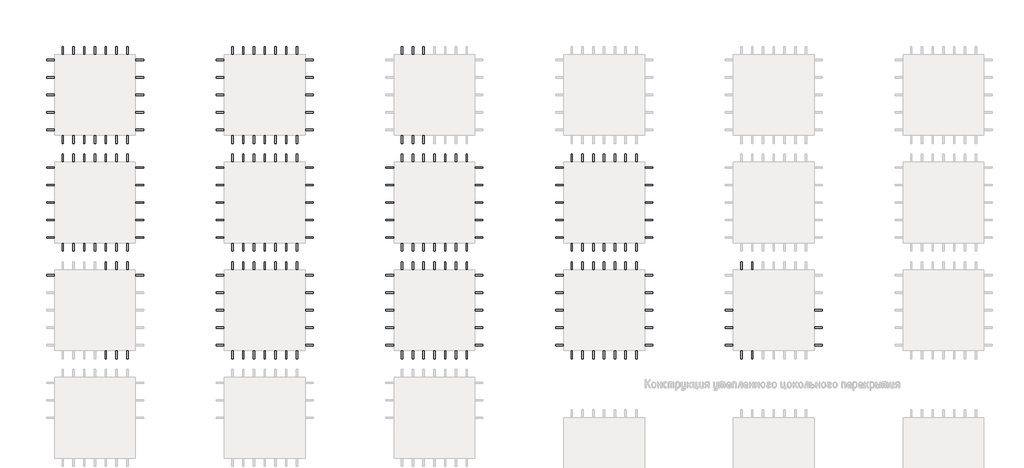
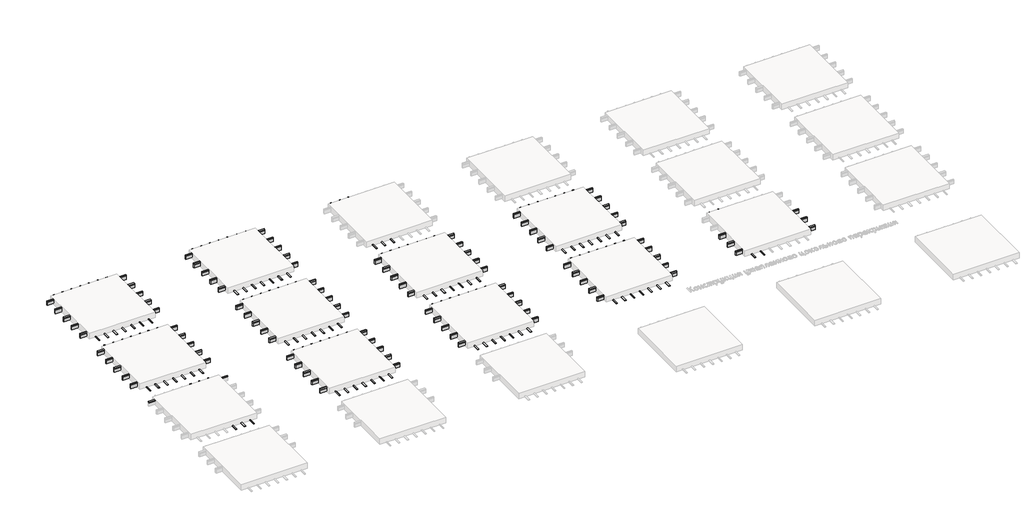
# One storey, part 5 of 42: 168 beams.
"""IFC4 building model written with IfcOpenShell, lengths in millimetres."""

from ifc_helpers import new_model, si_unit, origin, place, context, project, spatial, transform, mapped, element, save
from components import beam_10aa4ee0, beam_54a566a4, beam_d9e12bf5

model = new_model("IFC4")

# Units and contexts
model_context = context("Model", 3, world=origin())
ifc_project = project(units=[si_unit("LENGTHUNIT", "METRE", prefix="MILLI")], contexts=[model_context])

# Site, building, storey
site = spatial("IfcSite", under=ifc_project)
building = spatial("IfcBuilding", under=site)
storey = spatial("IfcBuildingStorey", under=building, Name="Этаж 01", Elevation=0.0)

# Beams
placement = place(None, origin())
beam_shape = beam_10aa4ee0(model_context)
element("IfcBeam", 1, ObjectType="Деревянный брус : 50х150", at=placement, inside=storey, context=model_context, shape_type="MappedRepresentation", body=[
    mapped(beam_shape, transform((54513.2067679, -31726.7844763, -151.0), x_axis=(-1.0, 0.0, 0.0), y_axis=(0.0, -1.0, 0.0), z_axis=(0.0, 0.0, 1.0))),
])
element("IfcBeam", 2, ObjectType="Деревянный брус : 50х150", at=placement, inside=storey, context=model_context, shape_type="MappedRepresentation", body=[
    mapped(beam_shape, transform((54513.2067679, -31076.7844763, -151.0), x_axis=(-1.0, 0.0, 0.0), y_axis=(0.0, -1.0, 0.0), z_axis=(0.0, 0.0, 1.0))),
])
element("IfcBeam", 3, ObjectType="Деревянный брус : 50х150", at=placement, inside=storey, context=model_context, shape_type="MappedRepresentation", body=[
    mapped(beam_shape, transform((54513.2067679, -30426.7844763, -151.0), x_axis=(-1.0, 0.0, 0.0), y_axis=(0.0, -1.0, 0.0), z_axis=(0.0, 0.0, 1.0))),
])
element("IfcBeam", 4, ObjectType="Деревянный брус : 50х150", at=placement, inside=storey, context=model_context, shape_type="MappedRepresentation", body=[
    mapped(beam_shape, transform((54513.2067679, -29776.7844763, -151.0), x_axis=(-1.0, 0.0, 0.0), y_axis=(0.0, -1.0, 0.0), z_axis=(0.0, 0.0, 1.0))),
])
element("IfcBeam", 5, ObjectType="Деревянный брус : 50х150", at=placement, inside=storey, context=model_context, shape_type="MappedRepresentation", body=[
    mapped(beam_shape, transform((54513.2067679, -29126.7844763, -151.0), x_axis=(-1.0, 0.0, 0.0), y_axis=(0.0, -1.0, 0.0), z_axis=(0.0, 0.0, 1.0))),
])
element("IfcBeam", 6, ObjectType="Деревянный брус : 50х150", at=placement, inside=storey, context=model_context, shape_type="MappedRepresentation", body=[
    mapped(beam_shape, transform((35613.2067679, -27726.7844763, -151.0), x_axis=(-1.0, 0.0, 0.0), y_axis=(0.0, -1.0, 0.0), z_axis=(0.0, 0.0, 1.0))),
])
element("IfcBeam", 7, ObjectType="Деревянный брус : 50х150", at=placement, inside=storey, context=model_context, shape_type="MappedRepresentation", body=[
    mapped(beam_shape, transform((35613.2067679, -27076.7844763, -151.0), x_axis=(-1.0, 0.0, 0.0), y_axis=(0.0, -1.0, 0.0), z_axis=(0.0, 0.0, 1.0))),
])
element("IfcBeam", 8, ObjectType="Деревянный брус : 50х150", at=placement, inside=storey, context=model_context, shape_type="MappedRepresentation", body=[
    mapped(beam_shape, transform((35613.2067679, -26426.7844763, -151.0), x_axis=(-1.0, 0.0, 0.0), y_axis=(0.0, -1.0, 0.0), z_axis=(0.0, 0.0, 1.0))),
])
element("IfcBeam", 9, ObjectType="Деревянный брус : 50х150", at=placement, inside=storey, context=model_context, shape_type="MappedRepresentation", body=[
    mapped(beam_shape, transform((35613.2067679, -25776.7844763, -151.0), x_axis=(-1.0, 0.0, 0.0), y_axis=(0.0, -1.0, 0.0), z_axis=(0.0, 0.0, 1.0))),
])
element("IfcBeam", 10, ObjectType="Деревянный брус : 50х150", at=placement, inside=storey, context=model_context, shape_type="MappedRepresentation", body=[
    mapped(beam_shape, transform((35613.2067679, -25126.7844763, -151.0), x_axis=(-1.0, 0.0, 0.0), y_axis=(0.0, -1.0, 0.0), z_axis=(0.0, 0.0, 1.0))),
])
element("IfcBeam", 11, ObjectType="Деревянный брус : 50х150", at=placement, inside=storey, context=model_context, shape_type="MappedRepresentation", body=[
    mapped(beam_shape, transform((35613.2067679, -23726.7844763, -151.0), x_axis=(-1.0, 0.0, 0.0), y_axis=(0.0, -1.0, 0.0), z_axis=(0.0, 0.0, 1.0))),
])
element("IfcBeam", 12, ObjectType="Деревянный брус : 50х150", at=placement, inside=storey, context=model_context, shape_type="MappedRepresentation", body=[
    mapped(beam_shape, transform((35613.2067679, -23076.7844763, -151.0), x_axis=(-1.0, 0.0, 0.0), y_axis=(0.0, -1.0, 0.0), z_axis=(0.0, 0.0, 1.0))),
])
element("IfcBeam", 13, ObjectType="Деревянный брус : 50х150", at=placement, inside=storey, context=model_context, shape_type="MappedRepresentation", body=[
    mapped(beam_shape, transform((35613.2067679, -22426.7844763, -151.0), x_axis=(-1.0, 0.0, 0.0), y_axis=(0.0, -1.0, 0.0), z_axis=(0.0, 0.0, 1.0))),
])
element("IfcBeam", 14, ObjectType="Деревянный брус : 50х150", at=placement, inside=storey, context=model_context, shape_type="MappedRepresentation", body=[
    mapped(beam_shape, transform((35613.2067679, -21776.7844763, -151.0), x_axis=(-1.0, 0.0, 0.0), y_axis=(0.0, -1.0, 0.0), z_axis=(0.0, 0.0, 1.0))),
])
element("IfcBeam", 15, ObjectType="Деревянный брус : 50х150", at=placement, inside=storey, context=model_context, shape_type="MappedRepresentation", body=[
    mapped(beam_shape, transform((35613.2067679, -21126.7844763, -151.0), x_axis=(-1.0, 0.0, 0.0), y_axis=(0.0, -1.0, 0.0), z_axis=(0.0, 0.0, 1.0))),
])
element("IfcBeam", 16, ObjectType="Деревянный брус : 50х150", at=placement, inside=storey, context=model_context, shape_type="MappedRepresentation", body=[
    mapped(beam_shape, transform((41913.2067679, -31726.7844763, -151.0), x_axis=(-1.0, 0.0, 0.0), y_axis=(0.0, -1.0, 0.0), z_axis=(0.0, 0.0, 1.0))),
])
element("IfcBeam", 17, ObjectType="Деревянный брус : 50х150", at=placement, inside=storey, context=model_context, shape_type="MappedRepresentation", body=[
    mapped(beam_shape, transform((41913.2067679, -31076.7844763, -151.0), x_axis=(-1.0, 0.0, 0.0), y_axis=(0.0, -1.0, 0.0), z_axis=(0.0, 0.0, 1.0))),
])
element("IfcBeam", 18, ObjectType="Деревянный брус : 50х150", at=placement, inside=storey, context=model_context, shape_type="MappedRepresentation", body=[
    mapped(beam_shape, transform((41913.2067679, -30426.7844763, -151.0), x_axis=(-1.0, 0.0, 0.0), y_axis=(0.0, -1.0, 0.0), z_axis=(0.0, 0.0, 1.0))),
])
element("IfcBeam", 19, ObjectType="Деревянный брус : 50х150", at=placement, inside=storey, context=model_context, shape_type="MappedRepresentation", body=[
    mapped(beam_shape, transform((41913.2067679, -29776.7844763, -151.0), x_axis=(-1.0, 0.0, 0.0), y_axis=(0.0, -1.0, 0.0), z_axis=(0.0, 0.0, 1.0))),
])
element("IfcBeam", 20, ObjectType="Деревянный брус : 50х150", at=placement, inside=storey, context=model_context, shape_type="MappedRepresentation", body=[
    mapped(beam_shape, transform((41913.2067679, -29126.7844763, -151.0), x_axis=(-1.0, 0.0, 0.0), y_axis=(0.0, -1.0, 0.0), z_axis=(0.0, 0.0, 1.0))),
])
element("IfcBeam", 21, ObjectType="Деревянный брус : 50х150", at=placement, inside=storey, context=model_context, shape_type="MappedRepresentation", body=[
    mapped(beam_shape, transform((41913.2067679, -27726.7844763, -151.0), x_axis=(-1.0, 0.0, 0.0), y_axis=(0.0, -1.0, 0.0), z_axis=(0.0, 0.0, 1.0))),
])
element("IfcBeam", 22, ObjectType="Деревянный брус : 50х150", at=placement, inside=storey, context=model_context, shape_type="MappedRepresentation", body=[
    mapped(beam_shape, transform((41913.2067679, -27076.7844763, -151.0), x_axis=(-1.0, 0.0, 0.0), y_axis=(0.0, -1.0, 0.0), z_axis=(0.0, 0.0, 1.0))),
])
element("IfcBeam", 23, ObjectType="Деревянный брус : 50х150", at=placement, inside=storey, context=model_context, shape_type="MappedRepresentation", body=[
    mapped(beam_shape, transform((41913.2067679, -26426.7844763, -151.0), x_axis=(-1.0, 0.0, 0.0), y_axis=(0.0, -1.0, 0.0), z_axis=(0.0, 0.0, 1.0))),
])
element("IfcBeam", 24, ObjectType="Деревянный брус : 50х150", at=placement, inside=storey, context=model_context, shape_type="MappedRepresentation", body=[
    mapped(beam_shape, transform((41913.2067679, -25776.7844763, -151.0), x_axis=(-1.0, 0.0, 0.0), y_axis=(0.0, -1.0, 0.0), z_axis=(0.0, 0.0, 1.0))),
])
element("IfcBeam", 25, ObjectType="Деревянный брус : 50х150", at=placement, inside=storey, context=model_context, shape_type="MappedRepresentation", body=[
    mapped(beam_shape, transform((41913.2067679, -25126.7844763, -151.0), x_axis=(-1.0, 0.0, 0.0), y_axis=(0.0, -1.0, 0.0), z_axis=(0.0, 0.0, 1.0))),
])
element("IfcBeam", 26, ObjectType="Деревянный брус : 50х150", at=placement, inside=storey, context=model_context, shape_type="MappedRepresentation", body=[
    mapped(beam_shape, transform((41913.2067679, -23726.7844763, -151.0), x_axis=(-1.0, 0.0, 0.0), y_axis=(0.0, -1.0, 0.0), z_axis=(0.0, 0.0, 1.0))),
])
element("IfcBeam", 27, ObjectType="Деревянный брус : 50х150", at=placement, inside=storey, context=model_context, shape_type="MappedRepresentation", body=[
    mapped(beam_shape, transform((41913.2067679, -23076.7844763, -151.0), x_axis=(-1.0, 0.0, 0.0), y_axis=(0.0, -1.0, 0.0), z_axis=(0.0, 0.0, 1.0))),
])
element("IfcBeam", 28, ObjectType="Деревянный брус : 50х150", at=placement, inside=storey, context=model_context, shape_type="MappedRepresentation", body=[
    mapped(beam_shape, transform((41913.2067679, -22426.7844763, -151.0), x_axis=(-1.0, 0.0, 0.0), y_axis=(0.0, -1.0, 0.0), z_axis=(0.0, 0.0, 1.0))),
])
element("IfcBeam", 29, ObjectType="Деревянный брус : 50х150", at=placement, inside=storey, context=model_context, shape_type="MappedRepresentation", body=[
    mapped(beam_shape, transform((41913.2067679, -21776.7844763, -151.0), x_axis=(-1.0, 0.0, 0.0), y_axis=(0.0, -1.0, 0.0), z_axis=(0.0, 0.0, 1.0))),
])
element("IfcBeam", 30, ObjectType="Деревянный брус : 50х150", at=placement, inside=storey, context=model_context, shape_type="MappedRepresentation", body=[
    mapped(beam_shape, transform((41913.2067679, -21126.7844763, -151.0), x_axis=(-1.0, 0.0, 0.0), y_axis=(0.0, -1.0, 0.0), z_axis=(0.0, 0.0, 1.0))),
])
element("IfcBeam", 31, ObjectType="Деревянный брус : 50х150", at=placement, inside=storey, context=model_context, shape_type="MappedRepresentation", body=[
    mapped(beam_shape, transform((48213.2067679, -31726.7844763, -151.0), x_axis=(-1.0, 0.0, 0.0), y_axis=(0.0, -1.0, 0.0), z_axis=(0.0, 0.0, 1.0))),
])
element("IfcBeam", 32, ObjectType="Деревянный брус : 50х150", at=placement, inside=storey, context=model_context, shape_type="MappedRepresentation", body=[
    mapped(beam_shape, transform((48213.2067679, -31076.7844763, -151.0), x_axis=(-1.0, 0.0, 0.0), y_axis=(0.0, -1.0, 0.0), z_axis=(0.0, 0.0, 1.0))),
])
element("IfcBeam", 33, ObjectType="Деревянный брус : 50х150", at=placement, inside=storey, context=model_context, shape_type="MappedRepresentation", body=[
    mapped(beam_shape, transform((48213.2067679, -30426.7844763, -151.0), x_axis=(-1.0, 0.0, 0.0), y_axis=(0.0, -1.0, 0.0), z_axis=(0.0, 0.0, 1.0))),
])
element("IfcBeam", 34, ObjectType="Деревянный брус : 50х150", at=placement, inside=storey, context=model_context, shape_type="MappedRepresentation", body=[
    mapped(beam_shape, transform((48213.2067679, -29776.7844763, -151.0), x_axis=(-1.0, 0.0, 0.0), y_axis=(0.0, -1.0, 0.0), z_axis=(0.0, 0.0, 1.0))),
])
element("IfcBeam", 35, ObjectType="Деревянный брус : 50х150", at=placement, inside=storey, context=model_context, shape_type="MappedRepresentation", body=[
    mapped(beam_shape, transform((48213.2067679, -29126.7844763, -151.0), x_axis=(-1.0, 0.0, 0.0), y_axis=(0.0, -1.0, 0.0), z_axis=(0.0, 0.0, 1.0))),
])
element("IfcBeam", 36, ObjectType="Деревянный брус : 50х150", at=placement, inside=storey, context=model_context, shape_type="MappedRepresentation", body=[
    mapped(beam_shape, transform((48213.2067679, -27726.7844763, -151.0), x_axis=(-1.0, 0.0, 0.0), y_axis=(0.0, -1.0, 0.0), z_axis=(0.0, 0.0, 1.0))),
])
element("IfcBeam", 37, ObjectType="Деревянный брус : 50х150", at=placement, inside=storey, context=model_context, shape_type="MappedRepresentation", body=[
    mapped(beam_shape, transform((48213.2067679, -27076.7844763, -151.0), x_axis=(-1.0, 0.0, 0.0), y_axis=(0.0, -1.0, 0.0), z_axis=(0.0, 0.0, 1.0))),
])
element("IfcBeam", 38, ObjectType="Деревянный брус : 50х150", at=placement, inside=storey, context=model_context, shape_type="MappedRepresentation", body=[
    mapped(beam_shape, transform((48213.2067679, -26426.7844763, -151.0), x_axis=(-1.0, 0.0, 0.0), y_axis=(0.0, -1.0, 0.0), z_axis=(0.0, 0.0, 1.0))),
])
element("IfcBeam", 39, ObjectType="Деревянный брус : 50х150", at=placement, inside=storey, context=model_context, shape_type="MappedRepresentation", body=[
    mapped(beam_shape, transform((48213.2067679, -25776.7844763, -151.0), x_axis=(-1.0, 0.0, 0.0), y_axis=(0.0, -1.0, 0.0), z_axis=(0.0, 0.0, 1.0))),
])
element("IfcBeam", 40, ObjectType="Деревянный брус : 50х150", at=placement, inside=storey, context=model_context, shape_type="MappedRepresentation", body=[
    mapped(beam_shape, transform((48213.2067679, -25126.7844763, -151.0), x_axis=(-1.0, 0.0, 0.0), y_axis=(0.0, -1.0, 0.0), z_axis=(0.0, 0.0, 1.0))),
])
element("IfcBeam", 41, ObjectType="Деревянный брус : 50х150", at=placement, inside=storey, context=model_context, shape_type="MappedRepresentation", body=[
    mapped(beam_shape, transform((54513.2067679, -27726.7844763, -151.0), x_axis=(-1.0, 0.0, 0.0), y_axis=(0.0, -1.0, 0.0), z_axis=(0.0, 0.0, 1.0))),
])
element("IfcBeam", 42, ObjectType="Деревянный брус : 50х150", at=placement, inside=storey, context=model_context, shape_type="MappedRepresentation", body=[
    mapped(beam_shape, transform((54513.2067679, -27076.7844763, -151.0), x_axis=(-1.0, 0.0, 0.0), y_axis=(0.0, -1.0, 0.0), z_axis=(0.0, 0.0, 1.0))),
])
element("IfcBeam", 43, ObjectType="Деревянный брус : 50х150", at=placement, inside=storey, context=model_context, shape_type="MappedRepresentation", body=[
    mapped(beam_shape, transform((54513.2067679, -26426.7844763, -151.0), x_axis=(-1.0, 0.0, 0.0), y_axis=(0.0, -1.0, 0.0), z_axis=(0.0, 0.0, 1.0))),
])
element("IfcBeam", 44, ObjectType="Деревянный брус : 50х150", at=placement, inside=storey, context=model_context, shape_type="MappedRepresentation", body=[
    mapped(beam_shape, transform((54513.2067679, -25776.7844763, -151.0), x_axis=(-1.0, 0.0, 0.0), y_axis=(0.0, -1.0, 0.0), z_axis=(0.0, 0.0, 1.0))),
])
element("IfcBeam", 45, ObjectType="Деревянный брус : 50х150", at=placement, inside=storey, context=model_context, shape_type="MappedRepresentation", body=[
    mapped(beam_shape, transform((54513.2067679, -25126.7844763, -151.0), x_axis=(-1.0, 0.0, 0.0), y_axis=(0.0, -1.0, 0.0), z_axis=(0.0, 0.0, 1.0))),
])
element("IfcBeam", 46, ObjectType="Деревянный брус : 50х150", at=placement, inside=storey, context=model_context, shape_type="MappedRepresentation", body=[
    mapped(beam_shape, transform((60813.2067679, -31726.7844763, -151.0), x_axis=(-1.0, 0.0, 0.0), y_axis=(0.0, -1.0, 0.0), z_axis=(0.0, 0.0, 1.0))),
])
element("IfcBeam", 47, ObjectType="Деревянный брус : 50х150", at=placement, inside=storey, context=model_context, shape_type="MappedRepresentation", body=[
    mapped(beam_shape, transform((60813.2067679, -31076.7844763, -151.0), x_axis=(-1.0, 0.0, 0.0), y_axis=(0.0, -1.0, 0.0), z_axis=(0.0, 0.0, 1.0))),
])
element("IfcBeam", 48, ObjectType="Деревянный брус : 50х150", at=placement, inside=storey, context=model_context, shape_type="MappedRepresentation", body=[
    mapped(beam_shape, transform((60813.2067679, -30426.7844763, -151.0), x_axis=(-1.0, 0.0, 0.0), y_axis=(0.0, -1.0, 0.0), z_axis=(0.0, 0.0, 1.0))),
])
beam_2_shape = beam_54a566a4(model_context)
element("IfcBeam", 49, ObjectType="Деревянный брус : 50х50", at=placement, inside=storey, context=model_context, shape_type="MappedRepresentation", body=[
    mapped(beam_2_shape, transform((54513.2067679, -31726.7844763, -50.0), x_axis=(-1.0, 0.0, 0.0), y_axis=(0.0, -1.0, 0.0), z_axis=(0.0, 0.0, 1.0))),
])
element("IfcBeam", 50, ObjectType="Деревянный брус : 50х50", at=placement, inside=storey, context=model_context, shape_type="MappedRepresentation", body=[
    mapped(beam_2_shape, transform((54513.2067679, -31076.7844763, -50.0), x_axis=(-1.0, 0.0, 0.0), y_axis=(0.0, -1.0, 0.0), z_axis=(0.0, 0.0, 1.0))),
])
element("IfcBeam", 51, ObjectType="Деревянный брус : 50х50", at=placement, inside=storey, context=model_context, shape_type="MappedRepresentation", body=[
    mapped(beam_2_shape, transform((54513.2067679, -30426.7844763, -50.0), x_axis=(-1.0, 0.0, 0.0), y_axis=(0.0, -1.0, 0.0), z_axis=(0.0, 0.0, 1.0))),
])
element("IfcBeam", 52, ObjectType="Деревянный брус : 50х50", at=placement, inside=storey, context=model_context, shape_type="MappedRepresentation", body=[
    mapped(beam_2_shape, transform((54513.2067679, -29776.7844763, -50.0), x_axis=(-1.0, 0.0, 0.0), y_axis=(0.0, -1.0, 0.0), z_axis=(0.0, 0.0, 1.0))),
])
element("IfcBeam", 53, ObjectType="Деревянный брус : 50х50", at=placement, inside=storey, context=model_context, shape_type="MappedRepresentation", body=[
    mapped(beam_2_shape, transform((54513.2067679, -29126.7844763, -50.0), x_axis=(-1.0, 0.0, 0.0), y_axis=(0.0, -1.0, 0.0), z_axis=(0.0, 0.0, 1.0))),
])
element("IfcBeam", 54, ObjectType="Деревянный брус : 50х50", at=placement, inside=storey, context=model_context, shape_type="MappedRepresentation", body=[
    mapped(beam_2_shape, transform((35613.2067679, -29126.7844763, -50.0), x_axis=(-1.0, 0.0, 0.0), y_axis=(0.0, -1.0, 0.0), z_axis=(0.0, 0.0, 1.0))),
])
element("IfcBeam", 55, ObjectType="Деревянный брус : 50х50", at=placement, inside=storey, context=model_context, shape_type="MappedRepresentation", body=[
    mapped(beam_2_shape, transform((35613.2067679, -27726.7844763, -50.0), x_axis=(-1.0, 0.0, 0.0), y_axis=(0.0, -1.0, 0.0), z_axis=(0.0, 0.0, 1.0))),
])
element("IfcBeam", 56, ObjectType="Деревянный брус : 50х50", at=placement, inside=storey, context=model_context, shape_type="MappedRepresentation", body=[
    mapped(beam_2_shape, transform((35613.2067679, -27076.7844763, -50.0), x_axis=(-1.0, 0.0, 0.0), y_axis=(0.0, -1.0, 0.0), z_axis=(0.0, 0.0, 1.0))),
])
element("IfcBeam", 57, ObjectType="Деревянный брус : 50х50", at=placement, inside=storey, context=model_context, shape_type="MappedRepresentation", body=[
    mapped(beam_2_shape, transform((35613.2067679, -26426.7844763, -50.0), x_axis=(-1.0, 0.0, 0.0), y_axis=(0.0, -1.0, 0.0), z_axis=(0.0, 0.0, 1.0))),
])
element("IfcBeam", 58, ObjectType="Деревянный брус : 50х50", at=placement, inside=storey, context=model_context, shape_type="MappedRepresentation", body=[
    mapped(beam_2_shape, transform((35613.2067679, -25776.7844763, -50.0), x_axis=(-1.0, 0.0, 0.0), y_axis=(0.0, -1.0, 0.0), z_axis=(0.0, 0.0, 1.0))),
])
element("IfcBeam", 59, ObjectType="Деревянный брус : 50х50", at=placement, inside=storey, context=model_context, shape_type="MappedRepresentation", body=[
    mapped(beam_2_shape, transform((35613.2067679, -25126.7844763, -50.0), x_axis=(-1.0, 0.0, 0.0), y_axis=(0.0, -1.0, 0.0), z_axis=(0.0, 0.0, 1.0))),
])
element("IfcBeam", 60, ObjectType="Деревянный брус : 50х50", at=placement, inside=storey, context=model_context, shape_type="MappedRepresentation", body=[
    mapped(beam_2_shape, transform((35613.2067679, -23726.7844763, -50.0), x_axis=(-1.0, 0.0, 0.0), y_axis=(0.0, -1.0, 0.0), z_axis=(0.0, 0.0, 1.0))),
])
element("IfcBeam", 61, ObjectType="Деревянный брус : 50х50", at=placement, inside=storey, context=model_context, shape_type="MappedRepresentation", body=[
    mapped(beam_2_shape, transform((35613.2067679, -23076.7844763, -50.0), x_axis=(-1.0, 0.0, 0.0), y_axis=(0.0, -1.0, 0.0), z_axis=(0.0, 0.0, 1.0))),
])
element("IfcBeam", 62, ObjectType="Деревянный брус : 50х50", at=placement, inside=storey, context=model_context, shape_type="MappedRepresentation", body=[
    mapped(beam_2_shape, transform((35613.2067679, -22426.7844763, -50.0), x_axis=(-1.0, 0.0, 0.0), y_axis=(0.0, -1.0, 0.0), z_axis=(0.0, 0.0, 1.0))),
])
element("IfcBeam", 63, ObjectType="Деревянный брус : 50х50", at=placement, inside=storey, context=model_context, shape_type="MappedRepresentation", body=[
    mapped(beam_2_shape, transform((35613.2067679, -21776.7844763, -50.0), x_axis=(-1.0, 0.0, 0.0), y_axis=(0.0, -1.0, 0.0), z_axis=(0.0, 0.0, 1.0))),
])
element("IfcBeam", 64, ObjectType="Деревянный брус : 50х50", at=placement, inside=storey, context=model_context, shape_type="MappedRepresentation", body=[
    mapped(beam_2_shape, transform((35613.2067679, -21126.7844763, -50.0), x_axis=(-1.0, 0.0, 0.0), y_axis=(0.0, -1.0, 0.0), z_axis=(0.0, 0.0, 1.0))),
])
element("IfcBeam", 65, ObjectType="Деревянный брус : 50х50", at=placement, inside=storey, context=model_context, shape_type="MappedRepresentation", body=[
    mapped(beam_2_shape, transform((41913.2067679, -31726.7844763, -50.0), x_axis=(-1.0, 0.0, 0.0), y_axis=(0.0, -1.0, 0.0), z_axis=(0.0, 0.0, 1.0))),
])
element("IfcBeam", 66, ObjectType="Деревянный брус : 50х50", at=placement, inside=storey, context=model_context, shape_type="MappedRepresentation", body=[
    mapped(beam_2_shape, transform((41913.2067679, -31076.7844763, -50.0), x_axis=(-1.0, 0.0, 0.0), y_axis=(0.0, -1.0, 0.0), z_axis=(0.0, 0.0, 1.0))),
])
element("IfcBeam", 67, ObjectType="Деревянный брус : 50х50", at=placement, inside=storey, context=model_context, shape_type="MappedRepresentation", body=[
    mapped(beam_2_shape, transform((41913.2067679, -30426.7844763, -50.0), x_axis=(-1.0, 0.0, 0.0), y_axis=(0.0, -1.0, 0.0), z_axis=(0.0, 0.0, 1.0))),
])
element("IfcBeam", 68, ObjectType="Деревянный брус : 50х50", at=placement, inside=storey, context=model_context, shape_type="MappedRepresentation", body=[
    mapped(beam_2_shape, transform((41913.2067679, -29776.7844763, -50.0), x_axis=(-1.0, 0.0, 0.0), y_axis=(0.0, -1.0, 0.0), z_axis=(0.0, 0.0, 1.0))),
])
element("IfcBeam", 69, ObjectType="Деревянный брус : 50х50", at=placement, inside=storey, context=model_context, shape_type="MappedRepresentation", body=[
    mapped(beam_2_shape, transform((41913.2067679, -29126.7844763, -50.0), x_axis=(-1.0, 0.0, 0.0), y_axis=(0.0, -1.0, 0.0), z_axis=(0.0, 0.0, 1.0))),
])
element("IfcBeam", 70, ObjectType="Деревянный брус : 50х50", at=placement, inside=storey, context=model_context, shape_type="MappedRepresentation", body=[
    mapped(beam_2_shape, transform((41913.2067679, -27726.7844763, -50.0), x_axis=(-1.0, 0.0, 0.0), y_axis=(0.0, -1.0, 0.0), z_axis=(0.0, 0.0, 1.0))),
])
element("IfcBeam", 71, ObjectType="Деревянный брус : 50х50", at=placement, inside=storey, context=model_context, shape_type="MappedRepresentation", body=[
    mapped(beam_2_shape, transform((41913.2067679, -27076.7844763, -50.0), x_axis=(-1.0, 0.0, 0.0), y_axis=(0.0, -1.0, 0.0), z_axis=(0.0, 0.0, 1.0))),
])
element("IfcBeam", 72, ObjectType="Деревянный брус : 50х50", at=placement, inside=storey, context=model_context, shape_type="MappedRepresentation", body=[
    mapped(beam_2_shape, transform((41913.2067679, -26426.7844763, -50.0), x_axis=(-1.0, 0.0, 0.0), y_axis=(0.0, -1.0, 0.0), z_axis=(0.0, 0.0, 1.0))),
])
element("IfcBeam", 73, ObjectType="Деревянный брус : 50х50", at=placement, inside=storey, context=model_context, shape_type="MappedRepresentation", body=[
    mapped(beam_2_shape, transform((41913.2067679, -25776.7844763, -50.0), x_axis=(-1.0, 0.0, 0.0), y_axis=(0.0, -1.0, 0.0), z_axis=(0.0, 0.0, 1.0))),
])
element("IfcBeam", 74, ObjectType="Деревянный брус : 50х50", at=placement, inside=storey, context=model_context, shape_type="MappedRepresentation", body=[
    mapped(beam_2_shape, transform((41913.2067679, -25126.7844763, -50.0), x_axis=(-1.0, 0.0, 0.0), y_axis=(0.0, -1.0, 0.0), z_axis=(0.0, 0.0, 1.0))),
])
element("IfcBeam", 75, ObjectType="Деревянный брус : 50х50", at=placement, inside=storey, context=model_context, shape_type="MappedRepresentation", body=[
    mapped(beam_2_shape, transform((41913.2067679, -23726.7844763, -50.0), x_axis=(-1.0, 0.0, 0.0), y_axis=(0.0, -1.0, 0.0), z_axis=(0.0, 0.0, 1.0))),
])
element("IfcBeam", 76, ObjectType="Деревянный брус : 50х50", at=placement, inside=storey, context=model_context, shape_type="MappedRepresentation", body=[
    mapped(beam_2_shape, transform((41913.2067679, -23076.7844763, -50.0), x_axis=(-1.0, 0.0, 0.0), y_axis=(0.0, -1.0, 0.0), z_axis=(0.0, 0.0, 1.0))),
])
element("IfcBeam", 77, ObjectType="Деревянный брус : 50х50", at=placement, inside=storey, context=model_context, shape_type="MappedRepresentation", body=[
    mapped(beam_2_shape, transform((41913.2067679, -22426.7844763, -50.0), x_axis=(-1.0, 0.0, 0.0), y_axis=(0.0, -1.0, 0.0), z_axis=(0.0, 0.0, 1.0))),
])
element("IfcBeam", 78, ObjectType="Деревянный брус : 50х50", at=placement, inside=storey, context=model_context, shape_type="MappedRepresentation", body=[
    mapped(beam_2_shape, transform((41913.2067679, -21776.7844763, -50.0), x_axis=(-1.0, 0.0, 0.0), y_axis=(0.0, -1.0, 0.0), z_axis=(0.0, 0.0, 1.0))),
])
element("IfcBeam", 79, ObjectType="Деревянный брус : 50х50", at=placement, inside=storey, context=model_context, shape_type="MappedRepresentation", body=[
    mapped(beam_2_shape, transform((41913.2067679, -21126.7844763, -50.0), x_axis=(-1.0, 0.0, 0.0), y_axis=(0.0, -1.0, 0.0), z_axis=(0.0, 0.0, 1.0))),
])
element("IfcBeam", 80, ObjectType="Деревянный брус : 50х50", at=placement, inside=storey, context=model_context, shape_type="MappedRepresentation", body=[
    mapped(beam_2_shape, transform((48213.2067679, -31726.7844763, -50.0), x_axis=(-1.0, 0.0, 0.0), y_axis=(0.0, -1.0, 0.0), z_axis=(0.0, 0.0, 1.0))),
])
element("IfcBeam", 81, ObjectType="Деревянный брус : 50х50", at=placement, inside=storey, context=model_context, shape_type="MappedRepresentation", body=[
    mapped(beam_2_shape, transform((48213.2067679, -31076.7844763, -50.0), x_axis=(-1.0, 0.0, 0.0), y_axis=(0.0, -1.0, 0.0), z_axis=(0.0, 0.0, 1.0))),
])
element("IfcBeam", 82, ObjectType="Деревянный брус : 50х50", at=placement, inside=storey, context=model_context, shape_type="MappedRepresentation", body=[
    mapped(beam_2_shape, transform((48213.2067679, -30426.7844763, -50.0), x_axis=(-1.0, 0.0, 0.0), y_axis=(0.0, -1.0, 0.0), z_axis=(0.0, 0.0, 1.0))),
])
element("IfcBeam", 83, ObjectType="Деревянный брус : 50х50", at=placement, inside=storey, context=model_context, shape_type="MappedRepresentation", body=[
    mapped(beam_2_shape, transform((48213.2067679, -29776.7844763, -50.0), x_axis=(-1.0, 0.0, 0.0), y_axis=(0.0, -1.0, 0.0), z_axis=(0.0, 0.0, 1.0))),
])
element("IfcBeam", 84, ObjectType="Деревянный брус : 50х50", at=placement, inside=storey, context=model_context, shape_type="MappedRepresentation", body=[
    mapped(beam_2_shape, transform((48213.2067679, -29126.7844763, -50.0), x_axis=(-1.0, 0.0, 0.0), y_axis=(0.0, -1.0, 0.0), z_axis=(0.0, 0.0, 1.0))),
])
element("IfcBeam", 85, ObjectType="Деревянный брус : 50х50", at=placement, inside=storey, context=model_context, shape_type="MappedRepresentation", body=[
    mapped(beam_2_shape, transform((48213.2067679, -27726.7844763, -50.0), x_axis=(-1.0, 0.0, 0.0), y_axis=(0.0, -1.0, 0.0), z_axis=(0.0, 0.0, 1.0))),
])
element("IfcBeam", 86, ObjectType="Деревянный брус : 50х50", at=placement, inside=storey, context=model_context, shape_type="MappedRepresentation", body=[
    mapped(beam_2_shape, transform((48213.2067679, -27076.7844763, -50.0), x_axis=(-1.0, 0.0, 0.0), y_axis=(0.0, -1.0, 0.0), z_axis=(0.0, 0.0, 1.0))),
])
element("IfcBeam", 87, ObjectType="Деревянный брус : 50х50", at=placement, inside=storey, context=model_context, shape_type="MappedRepresentation", body=[
    mapped(beam_2_shape, transform((48213.2067679, -26426.7844763, -50.0), x_axis=(-1.0, 0.0, 0.0), y_axis=(0.0, -1.0, 0.0), z_axis=(0.0, 0.0, 1.0))),
])
element("IfcBeam", 88, ObjectType="Деревянный брус : 50х50", at=placement, inside=storey, context=model_context, shape_type="MappedRepresentation", body=[
    mapped(beam_2_shape, transform((48213.2067679, -25776.7844763, -50.0), x_axis=(-1.0, 0.0, 0.0), y_axis=(0.0, -1.0, 0.0), z_axis=(0.0, 0.0, 1.0))),
])
element("IfcBeam", 89, ObjectType="Деревянный брус : 50х50", at=placement, inside=storey, context=model_context, shape_type="MappedRepresentation", body=[
    mapped(beam_2_shape, transform((48213.2067679, -25126.7844763, -50.0), x_axis=(-1.0, 0.0, 0.0), y_axis=(0.0, -1.0, 0.0), z_axis=(0.0, 0.0, 1.0))),
])
element("IfcBeam", 90, ObjectType="Деревянный брус : 50х50", at=placement, inside=storey, context=model_context, shape_type="MappedRepresentation", body=[
    mapped(beam_2_shape, transform((54513.2067679, -27726.7844763, -50.0), x_axis=(-1.0, 0.0, 0.0), y_axis=(0.0, -1.0, 0.0), z_axis=(0.0, 0.0, 1.0))),
])
element("IfcBeam", 91, ObjectType="Деревянный брус : 50х50", at=placement, inside=storey, context=model_context, shape_type="MappedRepresentation", body=[
    mapped(beam_2_shape, transform((54513.2067679, -27076.7844763, -50.0), x_axis=(-1.0, 0.0, 0.0), y_axis=(0.0, -1.0, 0.0), z_axis=(0.0, 0.0, 1.0))),
])
element("IfcBeam", 92, ObjectType="Деревянный брус : 50х50", at=placement, inside=storey, context=model_context, shape_type="MappedRepresentation", body=[
    mapped(beam_2_shape, transform((54513.2067679, -26426.7844763, -50.0), x_axis=(-1.0, 0.0, 0.0), y_axis=(0.0, -1.0, 0.0), z_axis=(0.0, 0.0, 1.0))),
])
element("IfcBeam", 93, ObjectType="Деревянный брус : 50х50", at=placement, inside=storey, context=model_context, shape_type="MappedRepresentation", body=[
    mapped(beam_2_shape, transform((54513.2067679, -25776.7844763, -50.0), x_axis=(-1.0, 0.0, 0.0), y_axis=(0.0, -1.0, 0.0), z_axis=(0.0, 0.0, 1.0))),
])
element("IfcBeam", 94, ObjectType="Деревянный брус : 50х50", at=placement, inside=storey, context=model_context, shape_type="MappedRepresentation", body=[
    mapped(beam_2_shape, transform((54513.2067679, -25126.7844763, -50.0), x_axis=(-1.0, 0.0, 0.0), y_axis=(0.0, -1.0, 0.0), z_axis=(0.0, 0.0, 1.0))),
])
element("IfcBeam", 95, ObjectType="Деревянный брус : 50х50", at=placement, inside=storey, context=model_context, shape_type="MappedRepresentation", body=[
    mapped(beam_2_shape, transform((60813.2067679, -31726.7844763, -50.0), x_axis=(-1.0, 0.0, 0.0), y_axis=(0.0, -1.0, 0.0), z_axis=(0.0, 0.0, 1.0))),
])
element("IfcBeam", 96, ObjectType="Деревянный брус : 50х50", at=placement, inside=storey, context=model_context, shape_type="MappedRepresentation", body=[
    mapped(beam_2_shape, transform((60813.2067679, -31076.7844763, -50.0), x_axis=(-1.0, 0.0, 0.0), y_axis=(0.0, -1.0, 0.0), z_axis=(0.0, 0.0, 1.0))),
])
element("IfcBeam", 97, ObjectType="Деревянный брус : 50х50", at=placement, inside=storey, context=model_context, shape_type="MappedRepresentation", body=[
    mapped(beam_2_shape, transform((60813.2067679, -30426.7844763, -50.0), x_axis=(-1.0, 0.0, 0.0), y_axis=(0.0, -1.0, 0.0), z_axis=(0.0, 0.0, 1.0))),
])
beam_3_shape = beam_d9e12bf5(model_context)
element("IfcBeam", 98, ObjectType="Деревянный брус : 50х25", at=placement, inside=storey, context=model_context, shape_type="MappedRepresentation", body=[
    mapped(beam_3_shape, transform((53313.2067679, -30426.7844763, -239.5), x_axis=(0.0, 1.0, 0.0), y_axis=(-1.0, 0.0, 0.0), z_axis=(0.0, 0.0, 1.0))),
])
element("IfcBeam", 99, ObjectType="Деревянный брус : 50х25", at=placement, inside=storey, context=model_context, shape_type="MappedRepresentation", body=[
    mapped(beam_3_shape, transform((53713.2067679, -30426.7844763, -239.5), x_axis=(0.0, 1.0, 0.0), y_axis=(-1.0, 0.0, 0.0), z_axis=(0.0, 0.0, 1.0))),
])
element("IfcBeam", 100, ObjectType="Деревянный брус : 50х25", at=placement, inside=storey, context=model_context, shape_type="MappedRepresentation", body=[
    mapped(beam_3_shape, transform((54113.2067679, -30426.7844763, -239.5), x_axis=(0.0, 1.0, 0.0), y_axis=(-1.0, 0.0, 0.0), z_axis=(0.0, 0.0, 1.0))),
])
element("IfcBeam", 101, ObjectType="Деревянный брус : 50х25", at=placement, inside=storey, context=model_context, shape_type="MappedRepresentation", body=[
    mapped(beam_3_shape, transform((54513.2067679, -30426.7844763, -239.5), x_axis=(0.0, 1.0, 0.0), y_axis=(-1.0, 0.0, 0.0), z_axis=(0.0, 0.0, 1.0))),
])
element("IfcBeam", 102, ObjectType="Деревянный брус : 50х25", at=placement, inside=storey, context=model_context, shape_type="MappedRepresentation", body=[
    mapped(beam_3_shape, transform((54913.2067679, -30426.7844763, -239.5), x_axis=(0.0, 1.0, 0.0), y_axis=(-1.0, 0.0, 0.0), z_axis=(0.0, 0.0, 1.0))),
])
element("IfcBeam", 103, ObjectType="Деревянный брус : 50х25", at=placement, inside=storey, context=model_context, shape_type="MappedRepresentation", body=[
    mapped(beam_3_shape, transform((55313.2067679, -30426.7844763, -239.5), x_axis=(0.0, 1.0, 0.0), y_axis=(-1.0, 0.0, 0.0), z_axis=(0.0, 0.0, 1.0))),
])
element("IfcBeam", 104, ObjectType="Деревянный брус : 50х25", at=placement, inside=storey, context=model_context, shape_type="MappedRepresentation", body=[
    mapped(beam_3_shape, transform((55713.2067679, -30426.7844763, -239.5), x_axis=(0.0, 1.0, 0.0), y_axis=(-1.0, 0.0, 0.0), z_axis=(0.0, 0.0, 1.0))),
])
element("IfcBeam", 105, ObjectType="Деревянный брус : 50х25", at=placement, inside=storey, context=model_context, shape_type="MappedRepresentation", body=[
    mapped(beam_3_shape, transform((36013.2067679, -30426.7844763, -239.5), x_axis=(0.0, 1.0, 0.0), y_axis=(-1.0, 0.0, 0.0), z_axis=(0.0, 0.0, 1.0))),
])
element("IfcBeam", 106, ObjectType="Деревянный брус : 50х25", at=placement, inside=storey, context=model_context, shape_type="MappedRepresentation", body=[
    mapped(beam_3_shape, transform((36413.2067679, -30426.7844763, -239.5), x_axis=(0.0, 1.0, 0.0), y_axis=(-1.0, 0.0, 0.0), z_axis=(0.0, 0.0, 1.0))),
])
element("IfcBeam", 107, ObjectType="Деревянный брус : 50х25", at=placement, inside=storey, context=model_context, shape_type="MappedRepresentation", body=[
    mapped(beam_3_shape, transform((36813.2067679, -30426.7844763, -239.5), x_axis=(0.0, 1.0, 0.0), y_axis=(-1.0, 0.0, 0.0), z_axis=(0.0, 0.0, 1.0))),
])
element("IfcBeam", 108, ObjectType="Деревянный брус : 50х25", at=placement, inside=storey, context=model_context, shape_type="MappedRepresentation", body=[
    mapped(beam_3_shape, transform((34413.2067679, -26426.7844763, -239.5), x_axis=(0.0, 1.0, 0.0), y_axis=(-1.0, 0.0, 0.0), z_axis=(0.0, 0.0, 1.0))),
])
element("IfcBeam", 109, ObjectType="Деревянный брус : 50х25", at=placement, inside=storey, context=model_context, shape_type="MappedRepresentation", body=[
    mapped(beam_3_shape, transform((34813.2067679, -26426.7844763, -239.5), x_axis=(0.0, 1.0, 0.0), y_axis=(-1.0, 0.0, 0.0), z_axis=(0.0, 0.0, 1.0))),
])
element("IfcBeam", 110, ObjectType="Деревянный брус : 50х25", at=placement, inside=storey, context=model_context, shape_type="MappedRepresentation", body=[
    mapped(beam_3_shape, transform((35213.2067679, -26426.7844763, -239.5), x_axis=(0.0, 1.0, 0.0), y_axis=(-1.0, 0.0, 0.0), z_axis=(0.0, 0.0, 1.0))),
])
element("IfcBeam", 111, ObjectType="Деревянный брус : 50х25", at=placement, inside=storey, context=model_context, shape_type="MappedRepresentation", body=[
    mapped(beam_3_shape, transform((35613.2067679, -26426.7844763, -239.5), x_axis=(0.0, 1.0, 0.0), y_axis=(-1.0, 0.0, 0.0), z_axis=(0.0, 0.0, 1.0))),
])
element("IfcBeam", 112, ObjectType="Деревянный брус : 50х25", at=placement, inside=storey, context=model_context, shape_type="MappedRepresentation", body=[
    mapped(beam_3_shape, transform((36013.2067679, -26426.7844763, -239.5), x_axis=(0.0, 1.0, 0.0), y_axis=(-1.0, 0.0, 0.0), z_axis=(0.0, 0.0, 1.0))),
])
element("IfcBeam", 113, ObjectType="Деревянный брус : 50х25", at=placement, inside=storey, context=model_context, shape_type="MappedRepresentation", body=[
    mapped(beam_3_shape, transform((36413.2067679, -26426.7844763, -239.5), x_axis=(0.0, 1.0, 0.0), y_axis=(-1.0, 0.0, 0.0), z_axis=(0.0, 0.0, 1.0))),
])
element("IfcBeam", 114, ObjectType="Деревянный брус : 50х25", at=placement, inside=storey, context=model_context, shape_type="MappedRepresentation", body=[
    mapped(beam_3_shape, transform((36813.2067679, -26426.7844763, -239.5), x_axis=(0.0, 1.0, 0.0), y_axis=(-1.0, 0.0, 0.0), z_axis=(0.0, 0.0, 1.0))),
])
element("IfcBeam", 115, ObjectType="Деревянный брус : 50х25", at=placement, inside=storey, context=model_context, shape_type="MappedRepresentation", body=[
    mapped(beam_3_shape, transform((34413.2067679, -22426.7844763, -239.5), x_axis=(0.0, 1.0, 0.0), y_axis=(-1.0, 0.0, 0.0), z_axis=(0.0, 0.0, 1.0))),
])
element("IfcBeam", 116, ObjectType="Деревянный брус : 50х25", at=placement, inside=storey, context=model_context, shape_type="MappedRepresentation", body=[
    mapped(beam_3_shape, transform((34813.2067679, -22426.7844763, -239.5), x_axis=(0.0, 1.0, 0.0), y_axis=(-1.0, 0.0, 0.0), z_axis=(0.0, 0.0, 1.0))),
])
element("IfcBeam", 117, ObjectType="Деревянный брус : 50х25", at=placement, inside=storey, context=model_context, shape_type="MappedRepresentation", body=[
    mapped(beam_3_shape, transform((35213.2067679, -22426.7844763, -239.5), x_axis=(0.0, 1.0, 0.0), y_axis=(-1.0, 0.0, 0.0), z_axis=(0.0, 0.0, 1.0))),
])
element("IfcBeam", 118, ObjectType="Деревянный брус : 50х25", at=placement, inside=storey, context=model_context, shape_type="MappedRepresentation", body=[
    mapped(beam_3_shape, transform((35613.2067679, -22426.7844763, -239.5), x_axis=(0.0, 1.0, 0.0), y_axis=(-1.0, 0.0, 0.0), z_axis=(0.0, 0.0, 1.0))),
])
element("IfcBeam", 119, ObjectType="Деревянный брус : 50х25", at=placement, inside=storey, context=model_context, shape_type="MappedRepresentation", body=[
    mapped(beam_3_shape, transform((36013.2067679, -22426.7844763, -239.5), x_axis=(0.0, 1.0, 0.0), y_axis=(-1.0, 0.0, 0.0), z_axis=(0.0, 0.0, 1.0))),
])
element("IfcBeam", 120, ObjectType="Деревянный брус : 50х25", at=placement, inside=storey, context=model_context, shape_type="MappedRepresentation", body=[
    mapped(beam_3_shape, transform((36413.2067679, -22426.7844763, -239.5), x_axis=(0.0, 1.0, 0.0), y_axis=(-1.0, 0.0, 0.0), z_axis=(0.0, 0.0, 1.0))),
])
element("IfcBeam", 121, ObjectType="Деревянный брус : 50х25", at=placement, inside=storey, context=model_context, shape_type="MappedRepresentation", body=[
    mapped(beam_3_shape, transform((36813.2067679, -22426.7844763, -239.5), x_axis=(0.0, 1.0, 0.0), y_axis=(-1.0, 0.0, 0.0), z_axis=(0.0, 0.0, 1.0))),
])
element("IfcBeam", 122, ObjectType="Деревянный брус : 50х25", at=placement, inside=storey, context=model_context, shape_type="MappedRepresentation", body=[
    mapped(beam_3_shape, transform((40713.2067679, -30426.7844763, -239.5), x_axis=(0.0, 1.0, 0.0), y_axis=(-1.0, 0.0, 0.0), z_axis=(0.0, 0.0, 1.0))),
])
element("IfcBeam", 123, ObjectType="Деревянный брус : 50х25", at=placement, inside=storey, context=model_context, shape_type="MappedRepresentation", body=[
    mapped(beam_3_shape, transform((41113.2067679, -30426.7844763, -239.5), x_axis=(0.0, 1.0, 0.0), y_axis=(-1.0, 0.0, 0.0), z_axis=(0.0, 0.0, 1.0))),
])
element("IfcBeam", 124, ObjectType="Деревянный брус : 50х25", at=placement, inside=storey, context=model_context, shape_type="MappedRepresentation", body=[
    mapped(beam_3_shape, transform((41513.2067679, -30426.7844763, -239.5), x_axis=(0.0, 1.0, 0.0), y_axis=(-1.0, 0.0, 0.0), z_axis=(0.0, 0.0, 1.0))),
])
element("IfcBeam", 125, ObjectType="Деревянный брус : 50х25", at=placement, inside=storey, context=model_context, shape_type="MappedRepresentation", body=[
    mapped(beam_3_shape, transform((41913.2067679, -30426.7844763, -239.5), x_axis=(0.0, 1.0, 0.0), y_axis=(-1.0, 0.0, 0.0), z_axis=(0.0, 0.0, 1.0))),
])
element("IfcBeam", 126, ObjectType="Деревянный брус : 50х25", at=placement, inside=storey, context=model_context, shape_type="MappedRepresentation", body=[
    mapped(beam_3_shape, transform((42313.2067679, -30426.7844763, -239.5), x_axis=(0.0, 1.0, 0.0), y_axis=(-1.0, 0.0, 0.0), z_axis=(0.0, 0.0, 1.0))),
])
element("IfcBeam", 127, ObjectType="Деревянный брус : 50х25", at=placement, inside=storey, context=model_context, shape_type="MappedRepresentation", body=[
    mapped(beam_3_shape, transform((42713.2067679, -30426.7844763, -239.5), x_axis=(0.0, 1.0, 0.0), y_axis=(-1.0, 0.0, 0.0), z_axis=(0.0, 0.0, 1.0))),
])
element("IfcBeam", 128, ObjectType="Деревянный брус : 50х25", at=placement, inside=storey, context=model_context, shape_type="MappedRepresentation", body=[
    mapped(beam_3_shape, transform((43113.2067679, -30426.7844763, -239.5), x_axis=(0.0, 1.0, 0.0), y_axis=(-1.0, 0.0, 0.0), z_axis=(0.0, 0.0, 1.0))),
])
element("IfcBeam", 129, ObjectType="Деревянный брус : 50х25", at=placement, inside=storey, context=model_context, shape_type="MappedRepresentation", body=[
    mapped(beam_3_shape, transform((40713.2067679, -26426.7844763, -239.5), x_axis=(0.0, 1.0, 0.0), y_axis=(-1.0, 0.0, 0.0), z_axis=(0.0, 0.0, 1.0))),
])
element("IfcBeam", 130, ObjectType="Деревянный брус : 50х25", at=placement, inside=storey, context=model_context, shape_type="MappedRepresentation", body=[
    mapped(beam_3_shape, transform((41113.2067679, -26426.7844763, -239.5), x_axis=(0.0, 1.0, 0.0), y_axis=(-1.0, 0.0, 0.0), z_axis=(0.0, 0.0, 1.0))),
])
element("IfcBeam", 131, ObjectType="Деревянный брус : 50х25", at=placement, inside=storey, context=model_context, shape_type="MappedRepresentation", body=[
    mapped(beam_3_shape, transform((41513.2067679, -26426.7844763, -239.5), x_axis=(0.0, 1.0, 0.0), y_axis=(-1.0, 0.0, 0.0), z_axis=(0.0, 0.0, 1.0))),
])
element("IfcBeam", 132, ObjectType="Деревянный брус : 50х25", at=placement, inside=storey, context=model_context, shape_type="MappedRepresentation", body=[
    mapped(beam_3_shape, transform((41913.2067679, -26426.7844763, -239.5), x_axis=(0.0, 1.0, 0.0), y_axis=(-1.0, 0.0, 0.0), z_axis=(0.0, 0.0, 1.0))),
])
element("IfcBeam", 133, ObjectType="Деревянный брус : 50х25", at=placement, inside=storey, context=model_context, shape_type="MappedRepresentation", body=[
    mapped(beam_3_shape, transform((42313.2067679, -26426.7844763, -239.5), x_axis=(0.0, 1.0, 0.0), y_axis=(-1.0, 0.0, 0.0), z_axis=(0.0, 0.0, 1.0))),
])
element("IfcBeam", 134, ObjectType="Деревянный брус : 50х25", at=placement, inside=storey, context=model_context, shape_type="MappedRepresentation", body=[
    mapped(beam_3_shape, transform((42713.2067679, -26426.7844763, -239.5), x_axis=(0.0, 1.0, 0.0), y_axis=(-1.0, 0.0, 0.0), z_axis=(0.0, 0.0, 1.0))),
])
element("IfcBeam", 135, ObjectType="Деревянный брус : 50х25", at=placement, inside=storey, context=model_context, shape_type="MappedRepresentation", body=[
    mapped(beam_3_shape, transform((43113.2067679, -26426.7844763, -239.5), x_axis=(0.0, 1.0, 0.0), y_axis=(-1.0, 0.0, 0.0), z_axis=(0.0, 0.0, 1.0))),
])
element("IfcBeam", 136, ObjectType="Деревянный брус : 50х25", at=placement, inside=storey, context=model_context, shape_type="MappedRepresentation", body=[
    mapped(beam_3_shape, transform((40713.2067679, -22426.7844763, -239.5), x_axis=(0.0, 1.0, 0.0), y_axis=(-1.0, 0.0, 0.0), z_axis=(0.0, 0.0, 1.0))),
])
element("IfcBeam", 137, ObjectType="Деревянный брус : 50х25", at=placement, inside=storey, context=model_context, shape_type="MappedRepresentation", body=[
    mapped(beam_3_shape, transform((41113.2067679, -22426.7844763, -239.5), x_axis=(0.0, 1.0, 0.0), y_axis=(-1.0, 0.0, 0.0), z_axis=(0.0, 0.0, 1.0))),
])
element("IfcBeam", 138, ObjectType="Деревянный брус : 50х25", at=placement, inside=storey, context=model_context, shape_type="MappedRepresentation", body=[
    mapped(beam_3_shape, transform((41513.2067679, -22426.7844763, -239.5), x_axis=(0.0, 1.0, 0.0), y_axis=(-1.0, 0.0, 0.0), z_axis=(0.0, 0.0, 1.0))),
])
element("IfcBeam", 139, ObjectType="Деревянный брус : 50х25", at=placement, inside=storey, context=model_context, shape_type="MappedRepresentation", body=[
    mapped(beam_3_shape, transform((41913.2067679, -22426.7844763, -239.5), x_axis=(0.0, 1.0, 0.0), y_axis=(-1.0, 0.0, 0.0), z_axis=(0.0, 0.0, 1.0))),
])
element("IfcBeam", 140, ObjectType="Деревянный брус : 50х25", at=placement, inside=storey, context=model_context, shape_type="MappedRepresentation", body=[
    mapped(beam_3_shape, transform((42313.2067679, -22426.7844763, -239.5), x_axis=(0.0, 1.0, 0.0), y_axis=(-1.0, 0.0, 0.0), z_axis=(0.0, 0.0, 1.0))),
])
element("IfcBeam", 141, ObjectType="Деревянный брус : 50х25", at=placement, inside=storey, context=model_context, shape_type="MappedRepresentation", body=[
    mapped(beam_3_shape, transform((42713.2067679, -22426.7844763, -239.5), x_axis=(0.0, 1.0, 0.0), y_axis=(-1.0, 0.0, 0.0), z_axis=(0.0, 0.0, 1.0))),
])
element("IfcBeam", 142, ObjectType="Деревянный брус : 50х25", at=placement, inside=storey, context=model_context, shape_type="MappedRepresentation", body=[
    mapped(beam_3_shape, transform((43113.2067679, -22426.7844763, -239.5), x_axis=(0.0, 1.0, 0.0), y_axis=(-1.0, 0.0, 0.0), z_axis=(0.0, 0.0, 1.0))),
])
element("IfcBeam", 143, ObjectType="Деревянный брус : 50х25", at=placement, inside=storey, context=model_context, shape_type="MappedRepresentation", body=[
    mapped(beam_3_shape, transform((47013.2067679, -30426.7844763, -239.5), x_axis=(0.0, 1.0, 0.0), y_axis=(-1.0, 0.0, 0.0), z_axis=(0.0, 0.0, 1.0))),
])
element("IfcBeam", 144, ObjectType="Деревянный брус : 50х25", at=placement, inside=storey, context=model_context, shape_type="MappedRepresentation", body=[
    mapped(beam_3_shape, transform((47413.2067679, -30426.7844763, -239.5), x_axis=(0.0, 1.0, 0.0), y_axis=(-1.0, 0.0, 0.0), z_axis=(0.0, 0.0, 1.0))),
])
element("IfcBeam", 145, ObjectType="Деревянный брус : 50х25", at=placement, inside=storey, context=model_context, shape_type="MappedRepresentation", body=[
    mapped(beam_3_shape, transform((47813.2067679, -30426.7844763, -239.5), x_axis=(0.0, 1.0, 0.0), y_axis=(-1.0, 0.0, 0.0), z_axis=(0.0, 0.0, 1.0))),
])
element("IfcBeam", 146, ObjectType="Деревянный брус : 50х25", at=placement, inside=storey, context=model_context, shape_type="MappedRepresentation", body=[
    mapped(beam_3_shape, transform((48213.2067679, -30426.7844763, -239.5), x_axis=(0.0, 1.0, 0.0), y_axis=(-1.0, 0.0, 0.0), z_axis=(0.0, 0.0, 1.0))),
])
element("IfcBeam", 147, ObjectType="Деревянный брус : 50х25", at=placement, inside=storey, context=model_context, shape_type="MappedRepresentation", body=[
    mapped(beam_3_shape, transform((48613.2067679, -30426.7844763, -239.5), x_axis=(0.0, 1.0, 0.0), y_axis=(-1.0, 0.0, 0.0), z_axis=(0.0, 0.0, 1.0))),
])
element("IfcBeam", 148, ObjectType="Деревянный брус : 50х25", at=placement, inside=storey, context=model_context, shape_type="MappedRepresentation", body=[
    mapped(beam_3_shape, transform((49013.2067679, -30426.7844763, -239.5), x_axis=(0.0, 1.0, 0.0), y_axis=(-1.0, 0.0, 0.0), z_axis=(0.0, 0.0, 1.0))),
])
element("IfcBeam", 149, ObjectType="Деревянный брус : 50х25", at=placement, inside=storey, context=model_context, shape_type="MappedRepresentation", body=[
    mapped(beam_3_shape, transform((49413.2067679, -30426.7844763, -239.5), x_axis=(0.0, 1.0, 0.0), y_axis=(-1.0, 0.0, 0.0), z_axis=(0.0, 0.0, 1.0))),
])
element("IfcBeam", 150, ObjectType="Деревянный брус : 50х25", at=placement, inside=storey, context=model_context, shape_type="MappedRepresentation", body=[
    mapped(beam_3_shape, transform((47013.2067679, -26426.7844763, -239.5), x_axis=(0.0, 1.0, 0.0), y_axis=(-1.0, 0.0, 0.0), z_axis=(0.0, 0.0, 1.0))),
])
element("IfcBeam", 151, ObjectType="Деревянный брус : 50х25", at=placement, inside=storey, context=model_context, shape_type="MappedRepresentation", body=[
    mapped(beam_3_shape, transform((47413.2067679, -26426.7844763, -239.5), x_axis=(0.0, 1.0, 0.0), y_axis=(-1.0, 0.0, 0.0), z_axis=(0.0, 0.0, 1.0))),
])
element("IfcBeam", 152, ObjectType="Деревянный брус : 50х25", at=placement, inside=storey, context=model_context, shape_type="MappedRepresentation", body=[
    mapped(beam_3_shape, transform((47813.2067679, -26426.7844763, -239.5), x_axis=(0.0, 1.0, 0.0), y_axis=(-1.0, 0.0, 0.0), z_axis=(0.0, 0.0, 1.0))),
])
element("IfcBeam", 153, ObjectType="Деревянный брус : 50х25", at=placement, inside=storey, context=model_context, shape_type="MappedRepresentation", body=[
    mapped(beam_3_shape, transform((48213.2067679, -26426.7844763, -239.5), x_axis=(0.0, 1.0, 0.0), y_axis=(-1.0, 0.0, 0.0), z_axis=(0.0, 0.0, 1.0))),
])
element("IfcBeam", 154, ObjectType="Деревянный брус : 50х25", at=placement, inside=storey, context=model_context, shape_type="MappedRepresentation", body=[
    mapped(beam_3_shape, transform((48613.2067679, -26426.7844763, -239.5), x_axis=(0.0, 1.0, 0.0), y_axis=(-1.0, 0.0, 0.0), z_axis=(0.0, 0.0, 1.0))),
])
element("IfcBeam", 155, ObjectType="Деревянный брус : 50х25", at=placement, inside=storey, context=model_context, shape_type="MappedRepresentation", body=[
    mapped(beam_3_shape, transform((49013.2067679, -26426.7844763, -239.5), x_axis=(0.0, 1.0, 0.0), y_axis=(-1.0, 0.0, 0.0), z_axis=(0.0, 0.0, 1.0))),
])
element("IfcBeam", 156, ObjectType="Деревянный брус : 50х25", at=placement, inside=storey, context=model_context, shape_type="MappedRepresentation", body=[
    mapped(beam_3_shape, transform((49413.2067679, -26426.7844763, -239.5), x_axis=(0.0, 1.0, 0.0), y_axis=(-1.0, 0.0, 0.0), z_axis=(0.0, 0.0, 1.0))),
])
element("IfcBeam", 157, ObjectType="Деревянный брус : 50х25", at=placement, inside=storey, context=model_context, shape_type="MappedRepresentation", body=[
    mapped(beam_3_shape, transform((47013.2067679, -22426.7844763, -239.5), x_axis=(0.0, 1.0, 0.0), y_axis=(-1.0, 0.0, 0.0), z_axis=(0.0, 0.0, 1.0))),
])
element("IfcBeam", 158, ObjectType="Деревянный брус : 50х25", at=placement, inside=storey, context=model_context, shape_type="MappedRepresentation", body=[
    mapped(beam_3_shape, transform((47413.2067679, -22426.7844763, -239.5), x_axis=(0.0, 1.0, 0.0), y_axis=(-1.0, 0.0, 0.0), z_axis=(0.0, 0.0, 1.0))),
])
element("IfcBeam", 159, ObjectType="Деревянный брус : 50х25", at=placement, inside=storey, context=model_context, shape_type="MappedRepresentation", body=[
    mapped(beam_3_shape, transform((47813.2067679, -22426.7844763, -239.5), x_axis=(0.0, 1.0, 0.0), y_axis=(-1.0, 0.0, 0.0), z_axis=(0.0, 0.0, 1.0))),
])
element("IfcBeam", 160, ObjectType="Деревянный брус : 50х25", at=placement, inside=storey, context=model_context, shape_type="MappedRepresentation", body=[
    mapped(beam_3_shape, transform((53313.2067679, -26426.7844763, -239.5), x_axis=(0.0, 1.0, 0.0), y_axis=(-1.0, 0.0, 0.0), z_axis=(0.0, 0.0, 1.0))),
])
element("IfcBeam", 161, ObjectType="Деревянный брус : 50х25", at=placement, inside=storey, context=model_context, shape_type="MappedRepresentation", body=[
    mapped(beam_3_shape, transform((53713.2067679, -26426.7844763, -239.5), x_axis=(0.0, 1.0, 0.0), y_axis=(-1.0, 0.0, 0.0), z_axis=(0.0, 0.0, 1.0))),
])
element("IfcBeam", 162, ObjectType="Деревянный брус : 50х25", at=placement, inside=storey, context=model_context, shape_type="MappedRepresentation", body=[
    mapped(beam_3_shape, transform((54113.2067679, -26426.7844763, -239.5), x_axis=(0.0, 1.0, 0.0), y_axis=(-1.0, 0.0, 0.0), z_axis=(0.0, 0.0, 1.0))),
])
element("IfcBeam", 163, ObjectType="Деревянный брус : 50х25", at=placement, inside=storey, context=model_context, shape_type="MappedRepresentation", body=[
    mapped(beam_3_shape, transform((54513.2067679, -26426.7844763, -239.5), x_axis=(0.0, 1.0, 0.0), y_axis=(-1.0, 0.0, 0.0), z_axis=(0.0, 0.0, 1.0))),
])
element("IfcBeam", 164, ObjectType="Деревянный брус : 50х25", at=placement, inside=storey, context=model_context, shape_type="MappedRepresentation", body=[
    mapped(beam_3_shape, transform((54913.2067679, -26426.7844763, -239.5), x_axis=(0.0, 1.0, 0.0), y_axis=(-1.0, 0.0, 0.0), z_axis=(0.0, 0.0, 1.0))),
])
element("IfcBeam", 165, ObjectType="Деревянный брус : 50х25", at=placement, inside=storey, context=model_context, shape_type="MappedRepresentation", body=[
    mapped(beam_3_shape, transform((55313.2067679, -26426.7844763, -239.5), x_axis=(0.0, 1.0, 0.0), y_axis=(-1.0, 0.0, 0.0), z_axis=(0.0, 0.0, 1.0))),
])
element("IfcBeam", 166, ObjectType="Деревянный брус : 50х25", at=placement, inside=storey, context=model_context, shape_type="MappedRepresentation", body=[
    mapped(beam_3_shape, transform((55713.2067679, -26426.7844763, -239.5), x_axis=(0.0, 1.0, 0.0), y_axis=(-1.0, 0.0, 0.0), z_axis=(0.0, 0.0, 1.0))),
])
element("IfcBeam", 167, ObjectType="Деревянный брус : 50х25", at=placement, inside=storey, context=model_context, shape_type="MappedRepresentation", body=[
    mapped(beam_3_shape, transform((59613.2067679, -30426.7844763, -239.5), x_axis=(0.0, 1.0, 0.0), y_axis=(-1.0, 0.0, 0.0), z_axis=(0.0, 0.0, 1.0))),
])
element("IfcBeam", 168, ObjectType="Деревянный брус : 50х25", at=placement, inside=storey, context=model_context, shape_type="MappedRepresentation", body=[
    mapped(beam_3_shape, transform((60013.2067679, -30426.7844763, -239.5), x_axis=(0.0, 1.0, 0.0), y_axis=(-1.0, 0.0, 0.0), z_axis=(0.0, 0.0, 1.0))),
])

save(model, "model.ifc")
